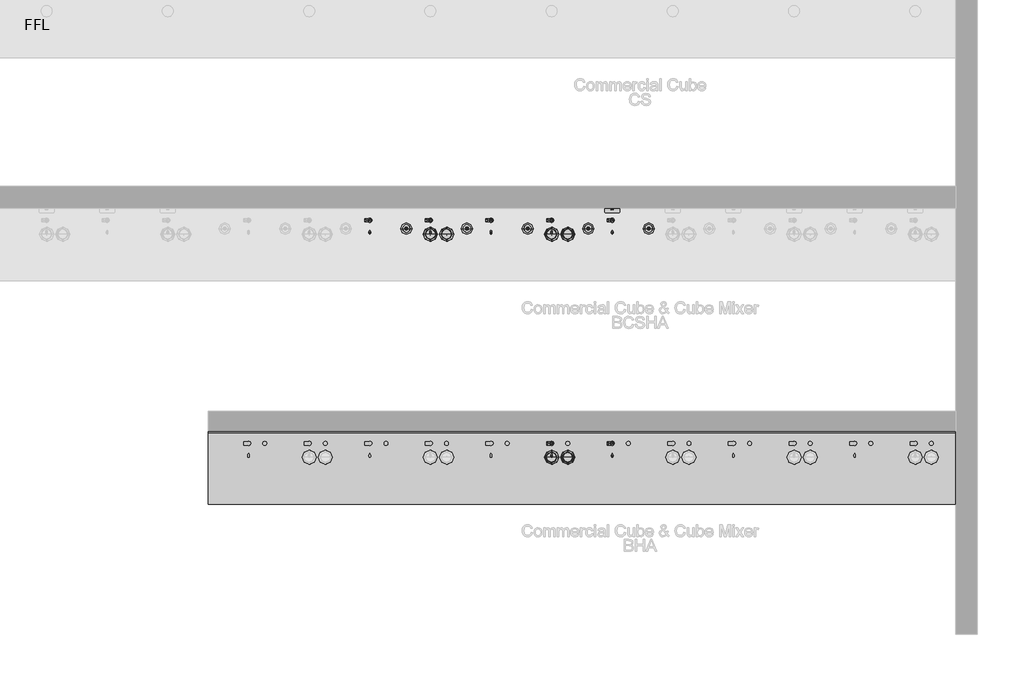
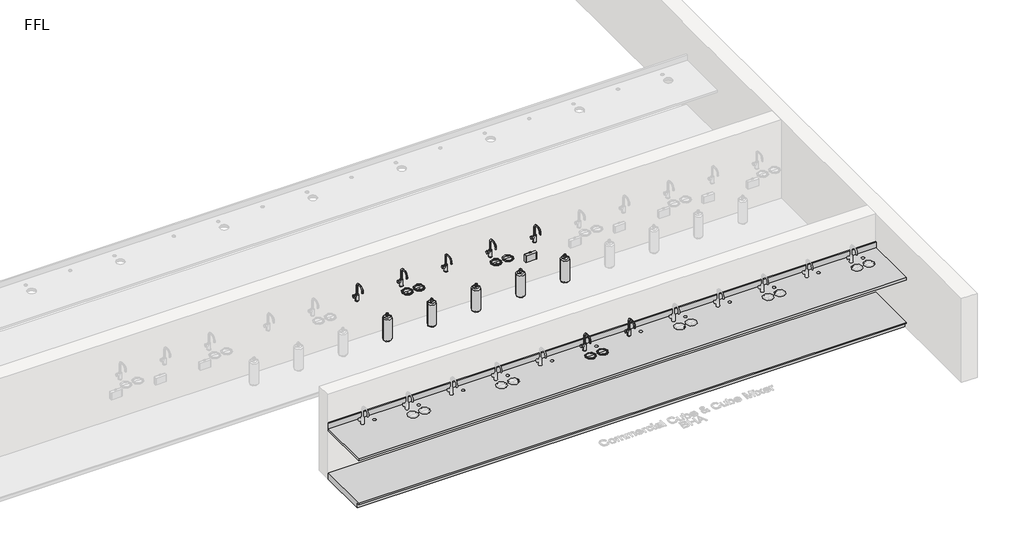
# One storey, part 2 of 14: 21 flow terminals, 2 furniture elements.
"""IFC4 building model written with IfcOpenShell, lengths in millimetres."""

from ifc_helpers import new_model, si_unit, frame, origin, place, context, project, spatial, polyline, circle_curve, transform, mapped, element, save
from ifc_brep_helpers import plane_surface, revolved_surface, advanced_brep
from components import flow_terminal_100_people_gold_0dc622b1, bright_chrome_743c02cf, bright_chrome_cb32e6d9, co2_gas_cylinder_20234e14, generic_plinth_900mm_24ad1541

model = new_model("IFC4")

# Units and contexts
model_context = context("Model", 3, world=origin())
ifc_project = project(units=[si_unit("LENGTHUNIT", "METRE", prefix="MILLI")], contexts=[model_context])

# Site, building, storey
site = spatial("IfcSite", under=ifc_project)
building = spatial("IfcBuilding", under=site)
storey = spatial("IfcBuildingStorey", under=building, Name="FFL", Elevation=0.0)

# Flow terminals
placement = place(None, origin())
flow_terminal_100_people_gold_shape = flow_terminal_100_people_gold_0dc622b1(model_context)
element("IfcFlowTerminal", 1, ObjectType="PlumFixt_Zip Commercial_Cube_Cube Mixer_BHA : 100 People - Gold", at=placement, inside=storey, context=model_context, shape_type="MappedRepresentation", body=[
    mapped(flow_terminal_100_people_gold_shape, transform((7279.2647071, -3457.2606696, 0.0), x_axis=(1.0, 0.0, 0.0), y_axis=(0.0, 1.0, 0.0), z_axis=(0.0, 0.0, 1.0))),
])
element("IfcFlowTerminal", 2, ObjectType="PlumFixt_Zip Commercial_Cube_Cube Mixer_BCSHA : 100 People - Gold", at=placement, inside=storey, context=model_context, shape_type="MappedRepresentation", body=[
    mapped(flow_terminal_100_people_gold_shape, transform((7279.2647071, -696.2606696, 0.0), x_axis=(1.0, 0.0, 0.0), y_axis=(0.0, 1.0, 0.0), z_axis=(0.0, 0.0, 1.0))),
])
element("IfcFlowTerminal", 3, ObjectType="PlumFixt_Zip Commercial_Cube_Cube Mixer_BHA : 100 People - Gunmetal", at=placement, inside=storey, context=model_context, shape_type="MappedRepresentation", body=[
    mapped(flow_terminal_100_people_gold_shape, transform((8029.2647071, -3457.2606696, 0.0), x_axis=(1.0, 0.0, 0.0), y_axis=(0.0, 1.0, 0.0), z_axis=(0.0, 0.0, 1.0))),
])
bright_chrome_shape = bright_chrome_743c02cf(model_context)
element("IfcFlowTerminal", 4, ObjectType="z_PlumFixt_Zip_Font : Bright Chrome", at=placement, inside=storey, context=model_context, shape_type="MappedRepresentation", body=[
    mapped(bright_chrome_shape, transform((5229.2647071, -767.7606696, 900.0), x_axis=(1.0000000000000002, 0.0, 0.0), y_axis=(0.0, 1.0000000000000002, 0.0), z_axis=(0.0, 0.0, 1.0))),
])
element("IfcFlowTerminal", 5, ObjectType="z_PlumFixt_Zip_Font : Bright Chrome", at=placement, inside=storey, context=model_context, shape_type="MappedRepresentation", body=[
    mapped(bright_chrome_shape, transform((6729.2647071, -767.7606696, 900.0), x_axis=(1.0000000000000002, 0.0, 0.0), y_axis=(0.0, 1.0000000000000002, 0.0), z_axis=(0.0, 0.0, 1.0))),
])
element("IfcFlowTerminal", 6, ObjectType="z_PlumFixt_Zip_Font : Bright Chrome", at=placement, inside=storey, context=model_context, shape_type="MappedRepresentation", body=[
    mapped(bright_chrome_shape, transform((6729.2647071, -3528.7606696, 900.0), x_axis=(1.0000000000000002, 0.0, 0.0), y_axis=(0.0, 1.0000000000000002, 0.0), z_axis=(0.0, 0.0, 1.0))),
])
element("IfcFlowTerminal", 7, ObjectType="z_PlumFixt_Zip_Font : Brushed Chrome", at=placement, inside=storey, context=model_context, shape_type="MappedRepresentation", body=[
    mapped(bright_chrome_shape, transform((5029.2647071, -767.7606696, 900.0), x_axis=(1.0000000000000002, 0.0, 0.0), y_axis=(0.0, 1.0000000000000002, 0.0), z_axis=(0.0, 0.0, 1.0))),
])
element("IfcFlowTerminal", 8, ObjectType="z_PlumFixt_Zip_Font : Brushed Chrome", at=placement, inside=storey, context=model_context, shape_type="MappedRepresentation", body=[
    mapped(bright_chrome_shape, transform((6529.2647071, -767.7606696, 900.0), x_axis=(1.0000000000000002, 0.0, 0.0), y_axis=(0.0, 1.0000000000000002, 0.0), z_axis=(0.0, 0.0, 1.0))),
])
element("IfcFlowTerminal", 9, ObjectType="z_PlumFixt_Zip_Font : Brushed Chrome", at=placement, inside=storey, context=model_context, shape_type="MappedRepresentation", body=[
    mapped(bright_chrome_shape, transform((6529.2647071, -3528.7606696, 900.0), x_axis=(1.0000000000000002, 0.0, 0.0), y_axis=(0.0, 1.0000000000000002, 0.0), z_axis=(0.0, 0.0, 1.0))),
])
bright_chrome_2_shape = bright_chrome_cb32e6d9(model_context)
element("IfcFlowTerminal", 10, ObjectType="z_PlumFixt_Zip_Cube : Brushed Gold", at=placement, inside=storey, context=model_context, shape_type="MappedRepresentation", body=[
    mapped(bright_chrome_2_shape, transform((4262.2647071, -668.2606696, 900.0), x_axis=(1.0000000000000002, 0.0, 0.0), y_axis=(0.0, 1.0000000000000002, 0.0), z_axis=(0.0, 0.0, 1.0))),
])
element("IfcFlowTerminal", 11, ObjectType="z_PlumFixt_Zip_Cube : Brushed Nickel", at=placement, inside=storey, context=model_context, shape_type="MappedRepresentation", body=[
    mapped(bright_chrome_2_shape, transform((5012.2647071, -668.2606696, 900.0), x_axis=(1.0000000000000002, 0.0, 0.0), y_axis=(0.0, 1.0000000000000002, 0.0), z_axis=(0.0, 0.0, 1.0))),
])
element("IfcFlowTerminal", 12, ObjectType="z_PlumFixt_Zip_Cube : Brushed Rose Gold", at=placement, inside=storey, context=model_context, shape_type="MappedRepresentation", body=[
    mapped(bright_chrome_2_shape, transform((5762.2647071, -668.2606696, 900.0), x_axis=(1.0000000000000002, 0.0, 0.0), y_axis=(0.0, 1.0000000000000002, 0.0), z_axis=(0.0, 0.0, 1.0))),
])
co2_gas_cylinder_shape = co2_gas_cylinder_20234e14(model_context)
element("IfcFlowTerminal", 13, ObjectType="z_PlumFixt_Zip_CO2 Gas Cylinder : CO2 Gas Cylinder", at=placement, inside=storey, context=model_context, shape_type="MappedRepresentation", body=[
    mapped(co2_gas_cylinder_shape, transform((4734.2647071, -769.7606696, 100.0), x_axis=(-1.0, 0.0, 0.0), y_axis=(0.0, -1.0, 0.0), z_axis=(0.0, 0.0, 1.0))),
])
element("IfcFlowTerminal", 14, ObjectType="z_PlumFixt_Zip_CO2 Gas Cylinder : CO2 Gas Cylinder", at=placement, inside=storey, context=model_context, shape_type="MappedRepresentation", body=[
    mapped(co2_gas_cylinder_shape, transform((5484.2647071, -769.7606696, 100.0), x_axis=(-1.0, 0.0, 0.0), y_axis=(0.0, -1.0, 0.0), z_axis=(0.0, 0.0, 1.0))),
])
element("IfcFlowTerminal", 15, ObjectType="z_PlumFixt_Zip_CO2 Gas Cylinder : CO2 Gas Cylinder", at=placement, inside=storey, context=model_context, shape_type="MappedRepresentation", body=[
    mapped(co2_gas_cylinder_shape, transform((6234.2647071, -769.7606696, 100.0), x_axis=(-1.0, 0.0, 0.0), y_axis=(0.0, -1.0, 0.0), z_axis=(0.0, 0.0, 1.0))),
])
element("IfcFlowTerminal", 16, ObjectType="z_PlumFixt_Zip_CO2 Gas Cylinder : CO2 Gas Cylinder", at=placement, inside=storey, context=model_context, shape_type="MappedRepresentation", body=[
    mapped(co2_gas_cylinder_shape, transform((6984.2647071, -769.7606696, 100.0), x_axis=(-1.0, 0.0, 0.0), y_axis=(0.0, -1.0, 0.0), z_axis=(0.0, 0.0, 1.0))),
])
element("IfcFlowTerminal", 17, ObjectType="z_PlumFixt_Zip_CO2 Gas Cylinder : CO2 Gas Cylinder", at=placement, inside=storey, context=model_context, shape_type="MappedRepresentation", body=[
    mapped(co2_gas_cylinder_shape, transform((7734.2647071, -769.7606696, 100.0), x_axis=(-1.0, 0.0, 0.0), y_axis=(0.0, -1.0, 0.0), z_axis=(0.0, 0.0, 1.0))),
])
element("IfcFlowTerminal", 18, ObjectType="z_PlumFixt_Zip_Cube : Gloss Black", at=placement, inside=storey, context=model_context, shape_type="MappedRepresentation", body=[
    mapped(bright_chrome_2_shape, transform((6512.2647071, -668.2606696, 900.0), x_axis=(1.0000000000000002, 0.0, 0.0), y_axis=(0.0, 1.0000000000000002, 0.0), z_axis=(0.0, 0.0, 1.0))),
])
element("IfcFlowTerminal", 19, ObjectType="z_PlumFixt_Zip_Cube : Gloss Black", at=placement, inside=storey, context=model_context, shape_type="MappedRepresentation", body=[
    mapped(bright_chrome_2_shape, transform((6512.2647071, -3429.2606696, 900.0), x_axis=(1.0000000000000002, 0.0, 0.0), y_axis=(0.0, 1.0000000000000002, 0.0), z_axis=(0.0, 0.0, 1.0))),
])
element("IfcFlowTerminal", 20, ObjectType="z_PlumFixt_Zip_Cube : Gold", at=placement, inside=storey, context=model_context, shape_type="MappedRepresentation", body=[
    mapped(bright_chrome_2_shape, transform((7262.2647071, -668.2606696, 900.0), x_axis=(1.0000000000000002, 0.0, 0.0), y_axis=(0.0, 1.0000000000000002, 0.0), z_axis=(0.0, 0.0, 1.0))),
])
element("IfcFlowTerminal", 21, ObjectType="z_PlumFixt_Zip_Cube : Gold", at=placement, inside=storey, context=model_context, shape_type="MappedRepresentation", body=[
    mapped(bright_chrome_2_shape, transform((7262.2647071, -3429.2606696, 900.0), x_axis=(1.0000000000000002, 0.0, 0.0), y_axis=(0.0, 1.0000000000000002, 0.0), z_axis=(0.0, 0.0, 1.0))),
])

# Furniture
element("IfcFurniture", 22, ObjectType="Counter Top : 900mm Depth", at=placement, inside=storey, context=model_context, shape_type="AdvancedBrep", body=[
    advanced_brep(
    [(2280.2647071, -4091.7606696, 900.0), (11530.2647071, -4091.7606696, 900.0), (11530.2647071, -3210.8106696, 900.0), (2280.2647071, -3210.8106696, 900.0), (11006.2647071, -3341.7606696, 900.0), (11054.2647071, -3341.7606696, 900.0), (10962.0647071, -3513.7606696, 900.0), (11098.4647071, -3513.7606696, 900.0), (11206.2647071, -3341.7606696, 900.0), (11254.2647071, -3341.7606696, 900.0), (11162.0647071, -3513.7606696, 900.0), (11298.4647071, -3513.7606696, 900.0), (10256.2647071, -3341.7606696, 900.0), (10304.2647071, -3341.7606696, 900.0), (10456.2647071, -3341.7606696, 900.0), (10504.2647071, -3341.7606696, 900.0), (9506.2647071, -3341.7606696, 900.0), (9554.2647071, -3341.7606696, 900.0), (9462.0647071, -3513.7606696, 900.0), (9598.4647071, -3513.7606696, 900.0), (9706.2647071, -3341.7606696, 900.0), (9754.2647071, -3341.7606696, 900.0), (9662.0647071, -3513.7606696, 900.0), (9798.4647071, -3513.7606696, 900.0), (8756.2647071, -3341.7606696, 900.0), (8804.2647071, -3341.7606696, 900.0), (8956.2647071, -3341.7606696, 900.0), (9004.2647071, -3341.7606696, 900.0), (8006.2647071, -3341.7606696, 900.0), (8054.2647071, -3341.7606696, 900.0), (7962.0647071, -3513.7606696, 900.0), (8098.4647071, -3513.7606696, 900.0), (8206.2647071, -3341.7606696, 900.0), (8254.2647071, -3341.7606696, 900.0), (8162.0647071, -3513.7606696, 900.0), (8298.4647071, -3513.7606696, 900.0), (7256.2647071, -3341.7606696, 900.0), (7304.2647071, -3341.7606696, 900.0), (7456.2647071, -3341.7606696, 900.0), (7504.2647071, -3341.7606696, 900.0), (6506.2647071, -3341.7606696, 900.0), (6554.2647071, -3341.7606696, 900.0), (6462.0647071, -3513.7606696, 900.0), (6598.4647071, -3513.7606696, 900.0), (6706.2647071, -3341.7606696, 900.0), (6754.2647071, -3341.7606696, 900.0), (6662.0647071, -3513.7606696, 900.0), (6798.4647071, -3513.7606696, 900.0), (5756.2647071, -3341.7606696, 900.0), (5804.2647071, -3341.7606696, 900.0), (5956.2647071, -3341.7606696, 900.0), (6004.2647071, -3341.7606696, 900.0), (5006.2647071, -3341.7606696, 900.0), (5054.2647071, -3341.7606696, 900.0), (4962.0647071, -3513.7606696, 900.0), (5098.4647071, -3513.7606696, 900.0), (5206.2647071, -3341.7606696, 900.0), (5254.2647071, -3341.7606696, 900.0), (5162.0647071, -3513.7606696, 900.0), (5298.4647071, -3513.7606696, 900.0), (4256.2647071, -3341.7606696, 900.0), (4304.2647071, -3341.7606696, 900.0), (4456.2647071, -3341.7606696, 900.0), (4504.2647071, -3341.7606696, 900.0), (3506.2647071, -3341.7606696, 900.0), (3554.2647071, -3341.7606696, 900.0), (3462.0647071, -3513.7606696, 900.0), (3598.4647071, -3513.7606696, 900.0), (3706.2647071, -3341.7606696, 900.0), (3754.2647071, -3341.7606696, 900.0), (3662.0647071, -3513.7606696, 900.0), (3798.4647071, -3513.7606696, 900.0), (2756.2647071, -3341.7606696, 900.0), (2804.2647071, -3341.7606696, 900.0), (2956.2647071, -3341.7606696, 900.0), (3004.2647071, -3341.7606696, 900.0), (11530.2647071, -3191.7606696, 860.0), (11530.2647071, -4091.7606696, 860.0), (2280.2647071, -4091.7606696, 860.0), (2280.2647071, -3191.7606696, 860.0), (11054.2647071, -3341.7606696, 860.0), (11006.2647071, -3341.7606696, 860.0), (11098.4647071, -3513.7606696, 860.0), (10962.0647071, -3513.7606696, 860.0), (11254.2647071, -3341.7606696, 860.0), (11206.2647071, -3341.7606696, 860.0), (11298.4647071, -3513.7606696, 860.0), (11162.0647071, -3513.7606696, 860.0), (10304.2647071, -3341.7606696, 860.0), (10256.2647071, -3341.7606696, 860.0), (10504.2647071, -3341.7606696, 860.0), (10456.2647071, -3341.7606696, 860.0), (9554.2647071, -3341.7606696, 860.0), (9506.2647071, -3341.7606696, 860.0), (9598.4647071, -3513.7606696, 860.0), (9462.0647071, -3513.7606696, 860.0), (9754.2647071, -3341.7606696, 860.0), (9706.2647071, -3341.7606696, 860.0), (9798.4647071, -3513.7606696, 860.0), (9662.0647071, -3513.7606696, 860.0), (8804.2647071, -3341.7606696, 860.0), (8756.2647071, -3341.7606696, 860.0), (9004.2647071, -3341.7606696, 860.0), (8956.2647071, -3341.7606696, 860.0), (8054.2647071, -3341.7606696, 860.0), (8006.2647071, -3341.7606696, 860.0), (8098.4647071, -3513.7606696, 860.0), (7962.0647071, -3513.7606696, 860.0), (8254.2647071, -3341.7606696, 860.0), (8206.2647071, -3341.7606696, 860.0), (8298.4647071, -3513.7606696, 860.0), (8162.0647071, -3513.7606696, 860.0), (7304.2647071, -3341.7606696, 860.0), (7256.2647071, -3341.7606696, 860.0), (7504.2647071, -3341.7606696, 860.0), (7456.2647071, -3341.7606696, 860.0), (6554.2647071, -3341.7606696, 860.0), (6506.2647071, -3341.7606696, 860.0), (6598.4647071, -3513.7606696, 860.0), (6462.0647071, -3513.7606696, 860.0), (6754.2647071, -3341.7606696, 860.0), (6706.2647071, -3341.7606696, 860.0), (6798.4647071, -3513.7606696, 860.0), (6662.0647071, -3513.7606696, 860.0), (5804.2647071, -3341.7606696, 860.0), (5756.2647071, -3341.7606696, 860.0), (6004.2647071, -3341.7606696, 860.0), (5956.2647071, -3341.7606696, 860.0), (5054.2647071, -3341.7606696, 860.0), (5006.2647071, -3341.7606696, 860.0), (5098.4647071, -3513.7606696, 860.0), (4962.0647071, -3513.7606696, 860.0), (5254.2647071, -3341.7606696, 860.0), (5206.2647071, -3341.7606696, 860.0), (5298.4647071, -3513.7606696, 860.0), (5162.0647071, -3513.7606696, 860.0), (4304.2647071, -3341.7606696, 860.0), (4256.2647071, -3341.7606696, 860.0), (4504.2647071, -3341.7606696, 860.0), (4456.2647071, -3341.7606696, 860.0), (3554.2647071, -3341.7606696, 860.0), (3506.2647071, -3341.7606696, 860.0), (3598.4647071, -3513.7606696, 860.0), (3462.0647071, -3513.7606696, 860.0), (3754.2647071, -3341.7606696, 860.0), (3706.2647071, -3341.7606696, 860.0), (3798.4647071, -3513.7606696, 860.0), (3662.0647071, -3513.7606696, 860.0), (2804.2647071, -3341.7606696, 860.0), (2756.2647071, -3341.7606696, 860.0), (3004.2647071, -3341.7606696, 860.0), (2956.2647071, -3341.7606696, 860.0), (2280.2647071, -3191.7606696, 1001.6), (11530.2647071, -3191.7606696, 1001.6), (2280.2647071, -3210.8106696, 1001.6), (11530.2647071, -3210.8106696, 1001.6)],
    [
        (0, 1),
        (1, 2),
        (2, 3),
        (3, 0),
        (4, 5, circle_curve(frame((11030.2647071, -3341.7606696, 900.0), z_axis=(0.0, 0.0, -1.0), x_axis=(-1.0000000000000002, 0.0, 0.0)), 24.0)),
        (5, 4, circle_curve(frame((11030.2647071, -3341.7606696, 900.0), z_axis=(0.0, 0.0, -1.0), x_axis=(-1.0000000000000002, 0.0, 0.0)), 24.0)),
        (6, 7, circle_curve(frame((11030.2647071, -3513.7606696, 900.0), z_axis=(0.0, 0.0, -1.0), x_axis=(-1.0000000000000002, 0.0, 0.0)), 68.2)),
        (7, 6, circle_curve(frame((11030.2647071, -3513.7606696, 900.0), z_axis=(0.0, 0.0, -1.0), x_axis=(-1.0000000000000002, 0.0, 0.0)), 68.2)),
        (8, 9, circle_curve(frame((11230.2647071, -3341.7606696, 900.0), z_axis=(0.0, 0.0, -1.0), x_axis=(-1.0000000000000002, 0.0, 0.0)), 24.0)),
        (9, 8, circle_curve(frame((11230.2647071, -3341.7606696, 900.0), z_axis=(0.0, 0.0, -1.0), x_axis=(-1.0000000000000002, 0.0, 0.0)), 24.0)),
        (10, 11, circle_curve(frame((11230.2647071, -3513.7606696, 900.0), z_axis=(0.0, 0.0, -1.0), x_axis=(-1.0000000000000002, 0.0, 0.0)), 68.2)),
        (11, 10, circle_curve(frame((11230.2647071, -3513.7606696, 900.0), z_axis=(0.0, 0.0, -1.0), x_axis=(-1.0000000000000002, 0.0, 0.0)), 68.2)),
        (12, 13, circle_curve(frame((10280.2647071, -3341.7606696, 900.0), z_axis=(0.0, 0.0, -1.0), x_axis=(-1.0000000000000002, 0.0, 0.0)), 24.0)),
        (13, 12, circle_curve(frame((10280.2647071, -3341.7606696, 900.0), z_axis=(0.0, 0.0, -1.0), x_axis=(-1.0000000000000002, 0.0, 0.0)), 24.0)),
        (14, 15, circle_curve(frame((10480.2647071, -3341.7606696, 900.0), z_axis=(0.0, 0.0, -1.0), x_axis=(-1.0000000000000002, 0.0, 0.0)), 24.0)),
        (15, 14, circle_curve(frame((10480.2647071, -3341.7606696, 900.0), z_axis=(0.0, 0.0, -1.0), x_axis=(-1.0000000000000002, 0.0, 0.0)), 24.0)),
        (16, 17, circle_curve(frame((9530.2647071, -3341.7606696, 900.0), z_axis=(0.0, 0.0, -1.0), x_axis=(-1.0000000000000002, 0.0, 0.0)), 24.0)),
        (17, 16, circle_curve(frame((9530.2647071, -3341.7606696, 900.0), z_axis=(0.0, 0.0, -1.0), x_axis=(-1.0000000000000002, 0.0, 0.0)), 24.0)),
        (18, 19, circle_curve(frame((9530.2647071, -3513.7606696, 900.0), z_axis=(0.0, 0.0, -1.0), x_axis=(-1.0000000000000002, 0.0, 0.0)), 68.2)),
        (19, 18, circle_curve(frame((9530.2647071, -3513.7606696, 900.0), z_axis=(0.0, 0.0, -1.0), x_axis=(-1.0000000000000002, 0.0, 0.0)), 68.2)),
        (20, 21, circle_curve(frame((9730.2647071, -3341.7606696, 900.0), z_axis=(0.0, 0.0, -1.0), x_axis=(-1.0000000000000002, 0.0, 0.0)), 24.0)),
        (21, 20, circle_curve(frame((9730.2647071, -3341.7606696, 900.0), z_axis=(0.0, 0.0, -1.0), x_axis=(-1.0000000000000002, 0.0, 0.0)), 24.0)),
        (22, 23, circle_curve(frame((9730.2647071, -3513.7606696, 900.0), z_axis=(0.0, 0.0, -1.0), x_axis=(-1.0000000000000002, 0.0, 0.0)), 68.2)),
        (23, 22, circle_curve(frame((9730.2647071, -3513.7606696, 900.0), z_axis=(0.0, 0.0, -1.0), x_axis=(-1.0000000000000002, 0.0, 0.0)), 68.2)),
        (24, 25, circle_curve(frame((8780.2647071, -3341.7606696, 900.0), z_axis=(0.0, 0.0, -1.0), x_axis=(-1.0000000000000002, 0.0, 0.0)), 24.0)),
        (25, 24, circle_curve(frame((8780.2647071, -3341.7606696, 900.0), z_axis=(0.0, 0.0, -1.0), x_axis=(-1.0000000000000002, 0.0, 0.0)), 24.0)),
        (26, 27, circle_curve(frame((8980.2647071, -3341.7606696, 900.0), z_axis=(0.0, 0.0, -1.0), x_axis=(-1.0000000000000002, 0.0, 0.0)), 24.0)),
        (27, 26, circle_curve(frame((8980.2647071, -3341.7606696, 900.0), z_axis=(0.0, 0.0, -1.0), x_axis=(-1.0000000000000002, 0.0, 0.0)), 24.0)),
        (28, 29, circle_curve(frame((8030.2647071, -3341.7606696, 900.0), z_axis=(0.0, 0.0, -1.0), x_axis=(-1.0000000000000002, 0.0, 0.0)), 24.0)),
        (29, 28, circle_curve(frame((8030.2647071, -3341.7606696, 900.0), z_axis=(0.0, 0.0, -1.0), x_axis=(-1.0000000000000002, 0.0, 0.0)), 24.0)),
        (30, 31, circle_curve(frame((8030.2647071, -3513.7606696, 900.0), z_axis=(0.0, 0.0, -1.0), x_axis=(-1.0000000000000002, 0.0, 0.0)), 68.2)),
        (31, 30, circle_curve(frame((8030.2647071, -3513.7606696, 900.0), z_axis=(0.0, 0.0, -1.0), x_axis=(-1.0000000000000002, 0.0, 0.0)), 68.2)),
        (32, 33, circle_curve(frame((8230.2647071, -3341.7606696, 900.0), z_axis=(0.0, 0.0, -1.0), x_axis=(-1.0000000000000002, 0.0, 0.0)), 24.0)),
        (33, 32, circle_curve(frame((8230.2647071, -3341.7606696, 900.0), z_axis=(0.0, 0.0, -1.0), x_axis=(-1.0000000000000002, 0.0, 0.0)), 24.0)),
        (34, 35, circle_curve(frame((8230.2647071, -3513.7606696, 900.0), z_axis=(0.0, 0.0, -1.0), x_axis=(-1.0000000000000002, 0.0, 0.0)), 68.2)),
        (35, 34, circle_curve(frame((8230.2647071, -3513.7606696, 900.0), z_axis=(0.0, 0.0, -1.0), x_axis=(-1.0000000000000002, 0.0, 0.0)), 68.2)),
        (36, 37, circle_curve(frame((7280.2647071, -3341.7606696, 900.0), z_axis=(0.0, 0.0, -1.0), x_axis=(-1.0000000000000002, 0.0, 0.0)), 24.0)),
        (37, 36, circle_curve(frame((7280.2647071, -3341.7606696, 900.0), z_axis=(0.0, 0.0, -1.0), x_axis=(-1.0000000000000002, 0.0, 0.0)), 24.0)),
        (38, 39, circle_curve(frame((7480.2647071, -3341.7606696, 900.0), z_axis=(0.0, 0.0, -1.0), x_axis=(-1.0000000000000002, 0.0, 0.0)), 24.0)),
        (39, 38, circle_curve(frame((7480.2647071, -3341.7606696, 900.0), z_axis=(0.0, 0.0, -1.0), x_axis=(-1.0000000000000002, 0.0, 0.0)), 24.0)),
        (40, 41, circle_curve(frame((6530.2647071, -3341.7606696, 900.0), z_axis=(0.0, 0.0, -1.0), x_axis=(-1.0000000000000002, 0.0, 0.0)), 24.0)),
        (41, 40, circle_curve(frame((6530.2647071, -3341.7606696, 900.0), z_axis=(0.0, 0.0, -1.0), x_axis=(-1.0000000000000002, 0.0, 0.0)), 24.0)),
        (42, 43, circle_curve(frame((6530.2647071, -3513.7606696, 900.0), z_axis=(0.0, 0.0, -1.0), x_axis=(-1.0000000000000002, 0.0, 0.0)), 68.2)),
        (43, 42, circle_curve(frame((6530.2647071, -3513.7606696, 900.0), z_axis=(0.0, 0.0, -1.0), x_axis=(-1.0000000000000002, 0.0, 0.0)), 68.2)),
        (44, 45, circle_curve(frame((6730.2647071, -3341.7606696, 900.0), z_axis=(0.0, 0.0, -1.0), x_axis=(-1.0000000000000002, 0.0, 0.0)), 24.0)),
        (45, 44, circle_curve(frame((6730.2647071, -3341.7606696, 900.0), z_axis=(0.0, 0.0, -1.0), x_axis=(-1.0000000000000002, 0.0, 0.0)), 24.0)),
        (46, 47, circle_curve(frame((6730.2647071, -3513.7606696, 900.0), z_axis=(0.0, 0.0, -1.0), x_axis=(-1.0000000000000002, 0.0, 0.0)), 68.2)),
        (47, 46, circle_curve(frame((6730.2647071, -3513.7606696, 900.0), z_axis=(0.0, 0.0, -1.0), x_axis=(-1.0000000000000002, 0.0, 0.0)), 68.2)),
        (48, 49, circle_curve(frame((5780.2647071, -3341.7606696, 900.0), z_axis=(0.0, 0.0, -1.0), x_axis=(-1.0000000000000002, 0.0, 0.0)), 24.0)),
        (49, 48, circle_curve(frame((5780.2647071, -3341.7606696, 900.0), z_axis=(0.0, 0.0, -1.0), x_axis=(-1.0000000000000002, 0.0, 0.0)), 24.0)),
        (50, 51, circle_curve(frame((5980.2647071, -3341.7606696, 900.0), z_axis=(0.0, 0.0, -1.0), x_axis=(-1.0000000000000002, 0.0, 0.0)), 24.0)),
        (51, 50, circle_curve(frame((5980.2647071, -3341.7606696, 900.0), z_axis=(0.0, 0.0, -1.0), x_axis=(-1.0000000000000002, 0.0, 0.0)), 24.0)),
        (52, 53, circle_curve(frame((5030.2647071, -3341.7606696, 900.0), z_axis=(0.0, 0.0, -1.0), x_axis=(-1.0000000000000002, 0.0, 0.0)), 24.0)),
        (53, 52, circle_curve(frame((5030.2647071, -3341.7606696, 900.0), z_axis=(0.0, 0.0, -1.0), x_axis=(-1.0000000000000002, 0.0, 0.0)), 24.0)),
        (54, 55, circle_curve(frame((5030.2647071, -3513.7606696, 900.0), z_axis=(0.0, 0.0, -1.0), x_axis=(-1.0000000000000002, 0.0, 0.0)), 68.2)),
        (55, 54, circle_curve(frame((5030.2647071, -3513.7606696, 900.0), z_axis=(0.0, 0.0, -1.0), x_axis=(-1.0000000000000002, 0.0, 0.0)), 68.2)),
        (56, 57, circle_curve(frame((5230.2647071, -3341.7606696, 900.0), z_axis=(0.0, 0.0, -1.0), x_axis=(-1.0000000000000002, 0.0, 0.0)), 24.0)),
        (57, 56, circle_curve(frame((5230.2647071, -3341.7606696, 900.0), z_axis=(0.0, 0.0, -1.0), x_axis=(-1.0000000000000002, 0.0, 0.0)), 24.0)),
        (58, 59, circle_curve(frame((5230.2647071, -3513.7606696, 900.0), z_axis=(0.0, 0.0, -1.0), x_axis=(-1.0000000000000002, 0.0, 0.0)), 68.2)),
        (59, 58, circle_curve(frame((5230.2647071, -3513.7606696, 900.0), z_axis=(0.0, 0.0, -1.0), x_axis=(-1.0000000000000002, 0.0, 0.0)), 68.2)),
        (60, 61, circle_curve(frame((4280.2647071, -3341.7606696, 900.0), z_axis=(0.0, 0.0, -1.0), x_axis=(-1.0000000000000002, 0.0, 0.0)), 24.0)),
        (61, 60, circle_curve(frame((4280.2647071, -3341.7606696, 900.0), z_axis=(0.0, 0.0, -1.0), x_axis=(-1.0000000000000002, 0.0, 0.0)), 24.0)),
        (62, 63, circle_curve(frame((4480.2647071, -3341.7606696, 900.0), z_axis=(0.0, 0.0, -1.0), x_axis=(-1.0000000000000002, 0.0, 0.0)), 24.0)),
        (63, 62, circle_curve(frame((4480.2647071, -3341.7606696, 900.0), z_axis=(0.0, 0.0, -1.0), x_axis=(-1.0000000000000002, 0.0, 0.0)), 24.0)),
        (64, 65, circle_curve(frame((3530.2647071, -3341.7606696, 900.0), z_axis=(0.0, 0.0, -1.0), x_axis=(-1.0000000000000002, 0.0, 0.0)), 24.0)),
        (65, 64, circle_curve(frame((3530.2647071, -3341.7606696, 900.0), z_axis=(0.0, 0.0, -1.0), x_axis=(-1.0000000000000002, 0.0, 0.0)), 24.0)),
        (66, 67, circle_curve(frame((3530.2647071, -3513.7606696, 900.0), z_axis=(0.0, 0.0, -1.0), x_axis=(-1.0000000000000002, 0.0, 0.0)), 68.2)),
        (67, 66, circle_curve(frame((3530.2647071, -3513.7606696, 900.0), z_axis=(0.0, 0.0, -1.0), x_axis=(-1.0000000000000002, 0.0, 0.0)), 68.2)),
        (68, 69, circle_curve(frame((3730.2647071, -3341.7606696, 900.0), z_axis=(0.0, 0.0, -1.0), x_axis=(-1.0000000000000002, 0.0, 0.0)), 24.0)),
        (69, 68, circle_curve(frame((3730.2647071, -3341.7606696, 900.0), z_axis=(0.0, 0.0, -1.0), x_axis=(-1.0000000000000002, 0.0, 0.0)), 24.0)),
        (70, 71, circle_curve(frame((3730.2647071, -3513.7606696, 900.0), z_axis=(0.0, 0.0, -1.0), x_axis=(-1.0000000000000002, 0.0, 0.0)), 68.2)),
        (71, 70, circle_curve(frame((3730.2647071, -3513.7606696, 900.0), z_axis=(0.0, 0.0, -1.0), x_axis=(-1.0000000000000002, 0.0, 0.0)), 68.2)),
        (72, 73, circle_curve(frame((2780.2647071, -3341.7606696, 900.0), z_axis=(0.0, 0.0, -1.0), x_axis=(-1.0000000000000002, 0.0, 0.0)), 24.0)),
        (73, 72, circle_curve(frame((2780.2647071, -3341.7606696, 900.0), z_axis=(0.0, 0.0, -1.0), x_axis=(-1.0000000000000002, 0.0, 0.0)), 24.0)),
        (74, 75, circle_curve(frame((2980.2647071, -3341.7606696, 900.0), z_axis=(0.0, 0.0, -1.0), x_axis=(-1.0000000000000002, 0.0, 0.0)), 24.0)),
        (75, 74, circle_curve(frame((2980.2647071, -3341.7606696, 900.0), z_axis=(0.0, 0.0, -1.0), x_axis=(-1.0000000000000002, 0.0, 0.0)), 24.0)),
        (76, 77),
        (77, 78),
        (78, 79),
        (79, 76),
        (80, 81, circle_curve(frame((11030.2647071, -3341.7606696, 860.0), z_axis=(0.0, 0.0, 1.0), x_axis=(-1.0000000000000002, 0.0, 0.0)), 24.0)),
        (81, 80, circle_curve(frame((11030.2647071, -3341.7606696, 860.0), z_axis=(0.0, 0.0, 1.0), x_axis=(-1.0000000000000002, 0.0, 0.0)), 24.0)),
        (82, 83, circle_curve(frame((11030.2647071, -3513.7606696, 860.0), z_axis=(0.0, 0.0, 1.0), x_axis=(-1.0000000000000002, 0.0, 0.0)), 68.2)),
        (83, 82, circle_curve(frame((11030.2647071, -3513.7606696, 860.0), z_axis=(0.0, 0.0, 1.0), x_axis=(-1.0000000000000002, 0.0, 0.0)), 68.2)),
        (84, 85, circle_curve(frame((11230.2647071, -3341.7606696, 860.0), z_axis=(0.0, 0.0, 1.0), x_axis=(-1.0000000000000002, 0.0, 0.0)), 24.0)),
        (85, 84, circle_curve(frame((11230.2647071, -3341.7606696, 860.0), z_axis=(0.0, 0.0, 1.0), x_axis=(-1.0000000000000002, 0.0, 0.0)), 24.0)),
        (86, 87, circle_curve(frame((11230.2647071, -3513.7606696, 860.0), z_axis=(0.0, 0.0, 1.0), x_axis=(-1.0000000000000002, 0.0, 0.0)), 68.2)),
        (87, 86, circle_curve(frame((11230.2647071, -3513.7606696, 860.0), z_axis=(0.0, 0.0, 1.0), x_axis=(-1.0000000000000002, 0.0, 0.0)), 68.2)),
        (88, 89, circle_curve(frame((10280.2647071, -3341.7606696, 860.0), z_axis=(0.0, 0.0, 1.0), x_axis=(-1.0000000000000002, 0.0, 0.0)), 24.0)),
        (89, 88, circle_curve(frame((10280.2647071, -3341.7606696, 860.0), z_axis=(0.0, 0.0, 1.0), x_axis=(-1.0000000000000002, 0.0, 0.0)), 24.0)),
        (90, 91, circle_curve(frame((10480.2647071, -3341.7606696, 860.0), z_axis=(0.0, 0.0, 1.0), x_axis=(-1.0000000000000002, 0.0, 0.0)), 24.0)),
        (91, 90, circle_curve(frame((10480.2647071, -3341.7606696, 860.0), z_axis=(0.0, 0.0, 1.0), x_axis=(-1.0000000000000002, 0.0, 0.0)), 24.0)),
        (92, 93, circle_curve(frame((9530.2647071, -3341.7606696, 860.0), z_axis=(0.0, 0.0, 1.0), x_axis=(-1.0000000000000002, 0.0, 0.0)), 24.0)),
        (93, 92, circle_curve(frame((9530.2647071, -3341.7606696, 860.0), z_axis=(0.0, 0.0, 1.0), x_axis=(-1.0000000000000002, 0.0, 0.0)), 24.0)),
        (94, 95, circle_curve(frame((9530.2647071, -3513.7606696, 860.0), z_axis=(0.0, 0.0, 1.0), x_axis=(-1.0000000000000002, 0.0, 0.0)), 68.2)),
        (95, 94, circle_curve(frame((9530.2647071, -3513.7606696, 860.0), z_axis=(0.0, 0.0, 1.0), x_axis=(-1.0000000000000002, 0.0, 0.0)), 68.2)),
        (96, 97, circle_curve(frame((9730.2647071, -3341.7606696, 860.0), z_axis=(0.0, 0.0, 1.0), x_axis=(-1.0000000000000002, 0.0, 0.0)), 24.0)),
        (97, 96, circle_curve(frame((9730.2647071, -3341.7606696, 860.0), z_axis=(0.0, 0.0, 1.0), x_axis=(-1.0000000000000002, 0.0, 0.0)), 24.0)),
        (98, 99, circle_curve(frame((9730.2647071, -3513.7606696, 860.0), z_axis=(0.0, 0.0, 1.0), x_axis=(-1.0000000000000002, 0.0, 0.0)), 68.2)),
        (99, 98, circle_curve(frame((9730.2647071, -3513.7606696, 860.0), z_axis=(0.0, 0.0, 1.0), x_axis=(-1.0000000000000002, 0.0, 0.0)), 68.2)),
        (100, 101, circle_curve(frame((8780.2647071, -3341.7606696, 860.0), z_axis=(0.0, 0.0, 1.0), x_axis=(-1.0000000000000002, 0.0, 0.0)), 24.0)),
        (101, 100, circle_curve(frame((8780.2647071, -3341.7606696, 860.0), z_axis=(0.0, 0.0, 1.0), x_axis=(-1.0000000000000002, 0.0, 0.0)), 24.0)),
        (102, 103, circle_curve(frame((8980.2647071, -3341.7606696, 860.0), z_axis=(0.0, 0.0, 1.0), x_axis=(-1.0000000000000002, 0.0, 0.0)), 24.0)),
        (103, 102, circle_curve(frame((8980.2647071, -3341.7606696, 860.0), z_axis=(0.0, 0.0, 1.0), x_axis=(-1.0000000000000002, 0.0, 0.0)), 24.0)),
        (104, 105, circle_curve(frame((8030.2647071, -3341.7606696, 860.0), z_axis=(0.0, 0.0, 1.0), x_axis=(-1.0000000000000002, 0.0, 0.0)), 24.0)),
        (105, 104, circle_curve(frame((8030.2647071, -3341.7606696, 860.0), z_axis=(0.0, 0.0, 1.0), x_axis=(-1.0000000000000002, 0.0, 0.0)), 24.0)),
        (106, 107, circle_curve(frame((8030.2647071, -3513.7606696, 860.0), z_axis=(0.0, 0.0, 1.0), x_axis=(-1.0000000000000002, 0.0, 0.0)), 68.2)),
        (107, 106, circle_curve(frame((8030.2647071, -3513.7606696, 860.0), z_axis=(0.0, 0.0, 1.0), x_axis=(-1.0000000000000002, 0.0, 0.0)), 68.2)),
        (108, 109, circle_curve(frame((8230.2647071, -3341.7606696, 860.0), z_axis=(0.0, 0.0, 1.0), x_axis=(-1.0000000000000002, 0.0, 0.0)), 24.0)),
        (109, 108, circle_curve(frame((8230.2647071, -3341.7606696, 860.0), z_axis=(0.0, 0.0, 1.0), x_axis=(-1.0000000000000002, 0.0, 0.0)), 24.0)),
        (110, 111, circle_curve(frame((8230.2647071, -3513.7606696, 860.0), z_axis=(0.0, 0.0, 1.0), x_axis=(-1.0000000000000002, 0.0, 0.0)), 68.2)),
        (111, 110, circle_curve(frame((8230.2647071, -3513.7606696, 860.0), z_axis=(0.0, 0.0, 1.0), x_axis=(-1.0000000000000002, 0.0, 0.0)), 68.2)),
        (112, 113, circle_curve(frame((7280.2647071, -3341.7606696, 860.0), z_axis=(0.0, 0.0, 1.0), x_axis=(-1.0000000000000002, 0.0, 0.0)), 24.0)),
        (113, 112, circle_curve(frame((7280.2647071, -3341.7606696, 860.0), z_axis=(0.0, 0.0, 1.0), x_axis=(-1.0000000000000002, 0.0, 0.0)), 24.0)),
        (114, 115, circle_curve(frame((7480.2647071, -3341.7606696, 860.0), z_axis=(0.0, 0.0, 1.0), x_axis=(-1.0000000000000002, 0.0, 0.0)), 24.0)),
        (115, 114, circle_curve(frame((7480.2647071, -3341.7606696, 860.0), z_axis=(0.0, 0.0, 1.0), x_axis=(-1.0000000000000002, 0.0, 0.0)), 24.0)),
        (116, 117, circle_curve(frame((6530.2647071, -3341.7606696, 860.0), z_axis=(0.0, 0.0, 1.0), x_axis=(-1.0000000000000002, 0.0, 0.0)), 24.0)),
        (117, 116, circle_curve(frame((6530.2647071, -3341.7606696, 860.0), z_axis=(0.0, 0.0, 1.0), x_axis=(-1.0000000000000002, 0.0, 0.0)), 24.0)),
        (118, 119, circle_curve(frame((6530.2647071, -3513.7606696, 860.0), z_axis=(0.0, 0.0, 1.0), x_axis=(-1.0000000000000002, 0.0, 0.0)), 68.2)),
        (119, 118, circle_curve(frame((6530.2647071, -3513.7606696, 860.0), z_axis=(0.0, 0.0, 1.0), x_axis=(-1.0000000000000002, 0.0, 0.0)), 68.2)),
        (120, 121, circle_curve(frame((6730.2647071, -3341.7606696, 860.0), z_axis=(0.0, 0.0, 1.0), x_axis=(-1.0000000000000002, 0.0, 0.0)), 24.0)),
        (121, 120, circle_curve(frame((6730.2647071, -3341.7606696, 860.0), z_axis=(0.0, 0.0, 1.0), x_axis=(-1.0000000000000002, 0.0, 0.0)), 24.0)),
        (122, 123, circle_curve(frame((6730.2647071, -3513.7606696, 860.0), z_axis=(0.0, 0.0, 1.0), x_axis=(-1.0000000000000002, 0.0, 0.0)), 68.2)),
        (123, 122, circle_curve(frame((6730.2647071, -3513.7606696, 860.0), z_axis=(0.0, 0.0, 1.0), x_axis=(-1.0000000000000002, 0.0, 0.0)), 68.2)),
        (124, 125, circle_curve(frame((5780.2647071, -3341.7606696, 860.0), z_axis=(0.0, 0.0, 1.0), x_axis=(-1.0000000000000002, 0.0, 0.0)), 24.0)),
        (125, 124, circle_curve(frame((5780.2647071, -3341.7606696, 860.0), z_axis=(0.0, 0.0, 1.0), x_axis=(-1.0000000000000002, 0.0, 0.0)), 24.0)),
        (126, 127, circle_curve(frame((5980.2647071, -3341.7606696, 860.0), z_axis=(0.0, 0.0, 1.0), x_axis=(-1.0000000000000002, 0.0, 0.0)), 24.0)),
        (127, 126, circle_curve(frame((5980.2647071, -3341.7606696, 860.0), z_axis=(0.0, 0.0, 1.0), x_axis=(-1.0000000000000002, 0.0, 0.0)), 24.0)),
        (128, 129, circle_curve(frame((5030.2647071, -3341.7606696, 860.0), z_axis=(0.0, 0.0, 1.0), x_axis=(-1.0000000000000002, 0.0, 0.0)), 24.0)),
        (129, 128, circle_curve(frame((5030.2647071, -3341.7606696, 860.0), z_axis=(0.0, 0.0, 1.0), x_axis=(-1.0000000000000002, 0.0, 0.0)), 24.0)),
        (130, 131, circle_curve(frame((5030.2647071, -3513.7606696, 860.0), z_axis=(0.0, 0.0, 1.0), x_axis=(-1.0000000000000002, 0.0, 0.0)), 68.2)),
        (131, 130, circle_curve(frame((5030.2647071, -3513.7606696, 860.0), z_axis=(0.0, 0.0, 1.0), x_axis=(-1.0000000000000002, 0.0, 0.0)), 68.2)),
        (132, 133, circle_curve(frame((5230.2647071, -3341.7606696, 860.0), z_axis=(0.0, 0.0, 1.0), x_axis=(-1.0000000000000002, 0.0, 0.0)), 24.0)),
        (133, 132, circle_curve(frame((5230.2647071, -3341.7606696, 860.0), z_axis=(0.0, 0.0, 1.0), x_axis=(-1.0000000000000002, 0.0, 0.0)), 24.0)),
        (134, 135, circle_curve(frame((5230.2647071, -3513.7606696, 860.0), z_axis=(0.0, 0.0, 1.0), x_axis=(-1.0000000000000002, 0.0, 0.0)), 68.2)),
        (135, 134, circle_curve(frame((5230.2647071, -3513.7606696, 860.0), z_axis=(0.0, 0.0, 1.0), x_axis=(-1.0000000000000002, 0.0, 0.0)), 68.2)),
        (136, 137, circle_curve(frame((4280.2647071, -3341.7606696, 860.0), z_axis=(0.0, 0.0, 1.0), x_axis=(-1.0000000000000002, 0.0, 0.0)), 24.0)),
        (137, 136, circle_curve(frame((4280.2647071, -3341.7606696, 860.0), z_axis=(0.0, 0.0, 1.0), x_axis=(-1.0000000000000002, 0.0, 0.0)), 24.0)),
        (138, 139, circle_curve(frame((4480.2647071, -3341.7606696, 860.0), z_axis=(0.0, 0.0, 1.0), x_axis=(-1.0000000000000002, 0.0, 0.0)), 24.0)),
        (139, 138, circle_curve(frame((4480.2647071, -3341.7606696, 860.0), z_axis=(0.0, 0.0, 1.0), x_axis=(-1.0000000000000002, 0.0, 0.0)), 24.0)),
        (140, 141, circle_curve(frame((3530.2647071, -3341.7606696, 860.0), z_axis=(0.0, 0.0, 1.0), x_axis=(-1.0000000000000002, 0.0, 0.0)), 24.0)),
        (141, 140, circle_curve(frame((3530.2647071, -3341.7606696, 860.0), z_axis=(0.0, 0.0, 1.0), x_axis=(-1.0000000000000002, 0.0, 0.0)), 24.0)),
        (142, 143, circle_curve(frame((3530.2647071, -3513.7606696, 860.0), z_axis=(0.0, 0.0, 1.0), x_axis=(-1.0000000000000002, 0.0, 0.0)), 68.2)),
        (143, 142, circle_curve(frame((3530.2647071, -3513.7606696, 860.0), z_axis=(0.0, 0.0, 1.0), x_axis=(-1.0000000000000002, 0.0, 0.0)), 68.2)),
        (144, 145, circle_curve(frame((3730.2647071, -3341.7606696, 860.0), z_axis=(0.0, 0.0, 1.0), x_axis=(-1.0000000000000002, 0.0, 0.0)), 24.0)),
        (145, 144, circle_curve(frame((3730.2647071, -3341.7606696, 860.0), z_axis=(0.0, 0.0, 1.0), x_axis=(-1.0000000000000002, 0.0, 0.0)), 24.0)),
        (146, 147, circle_curve(frame((3730.2647071, -3513.7606696, 860.0), z_axis=(0.0, 0.0, 1.0), x_axis=(-1.0000000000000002, 0.0, 0.0)), 68.2)),
        (147, 146, circle_curve(frame((3730.2647071, -3513.7606696, 860.0), z_axis=(0.0, 0.0, 1.0), x_axis=(-1.0000000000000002, 0.0, 0.0)), 68.2)),
        (148, 149, circle_curve(frame((2780.2647071, -3341.7606696, 860.0), z_axis=(0.0, 0.0, 1.0), x_axis=(-1.0000000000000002, 0.0, 0.0)), 24.0)),
        (149, 148, circle_curve(frame((2780.2647071, -3341.7606696, 860.0), z_axis=(0.0, 0.0, 1.0), x_axis=(-1.0000000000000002, 0.0, 0.0)), 24.0)),
        (150, 151, circle_curve(frame((2980.2647071, -3341.7606696, 860.0), z_axis=(0.0, 0.0, 1.0), x_axis=(-1.0000000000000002, 0.0, 0.0)), 24.0)),
        (151, 150, circle_curve(frame((2980.2647071, -3341.7606696, 860.0), z_axis=(0.0, 0.0, 1.0), x_axis=(-1.0000000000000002, 0.0, 0.0)), 24.0)),
        (79, 152),
        (152, 153),
        (153, 76),
        (3, 154),
        (154, 152),
        (78, 0),
        (77, 1),
        (153, 155),
        (155, 2),
        (154, 155),
        (80, 5),
        (4, 81),
        (82, 7),
        (6, 83),
        (84, 9),
        (8, 85),
        (86, 11),
        (10, 87),
        (88, 13),
        (12, 89),
        (90, 15),
        (14, 91),
        (92, 17),
        (16, 93),
        (94, 19),
        (18, 95),
        (96, 21),
        (20, 97),
        (98, 23),
        (22, 99),
        (100, 25),
        (24, 101),
        (102, 27),
        (26, 103),
        (104, 29),
        (28, 105),
        (106, 31),
        (30, 107),
        (108, 33),
        (32, 109),
        (110, 35),
        (34, 111),
        (112, 37),
        (36, 113),
        (114, 39),
        (38, 115),
        (116, 41),
        (40, 117),
        (118, 43),
        (42, 119),
        (120, 45),
        (44, 121),
        (122, 47),
        (46, 123),
        (124, 49),
        (48, 125),
        (126, 51),
        (50, 127),
        (128, 53),
        (52, 129),
        (130, 55),
        (54, 131),
        (132, 57),
        (56, 133),
        (134, 59),
        (58, 135),
        (136, 61),
        (60, 137),
        (138, 63),
        (62, 139),
        (140, 65),
        (64, 141),
        (142, 67),
        (66, 143),
        (144, 69),
        (68, 145),
        (146, 71),
        (70, 147),
        (148, 73),
        (72, 149),
        (150, 75),
        (74, 151),
    ],
    [
        plane_surface(frame((2280.2647071, -3191.7606696, 900.0), z_axis=(0.0, 0.0, 1.0), x_axis=(-1.0, 0.0, 0.0))),
        plane_surface(frame((2280.2647071, -3191.7606696, 860.0), z_axis=(0.0, 0.0, -1.0), x_axis=(1.0, 0.0, 0.0))),
        plane_surface(frame((11530.2647071, -3191.7606696, 900.0), z_axis=(0.0, 1.0, 0.0), x_axis=(0.0, 0.0, -1.0))),
        plane_surface(frame((2280.2647071, -3191.7606696, 900.0), z_axis=(-1.0, 0.0, 0.0), x_axis=(0.0, 0.0, -1.0))),
        plane_surface(frame((2280.2647071, -4091.7606696, 900.0), z_axis=(0.0, -1.0, 0.0), x_axis=(0.0, 0.0, -1.0))),
        plane_surface(frame((11530.2647071, -4091.7606696, 900.0), z_axis=(1.0, 0.0, 0.0), x_axis=(0.0, 0.0, -1.0))),
        plane_surface(frame((2280.2647071, -3191.7606696, 1001.6), z_axis=(0.0, 0.0, 1.0), x_axis=(0.0, -1.0, 0.0))),
        plane_surface(frame((2280.2647071, -3210.8106696, 1001.6), z_axis=(0.0, -1.0, 0.0), x_axis=(0.0, 0.0, -1.0))),
        revolved_surface(polyline([(11006.2647071, -3341.7606696, 900.0), (11006.2647071, -3341.7606696, 860.0)]), (11030.2647071, -3341.7606696, 850.0), (0.0, 0.0, 1.0)),
        revolved_surface(polyline([(10962.064707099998, -3513.7606696, 900.0), (10962.064707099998, -3513.7606696, 860.0)]), (11030.2647071, -3513.7606696, 850.0), (0.0, 0.0, 1.0)),
        revolved_surface(polyline([(11206.2647071, -3341.7606696, 900.0), (11206.2647071, -3341.7606696, 860.0)]), (11230.2647071, -3341.7606696, 850.0), (0.0, 0.0, 1.0)),
        revolved_surface(polyline([(11162.064707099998, -3513.7606696, 900.0), (11162.064707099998, -3513.7606696, 860.0)]), (11230.2647071, -3513.7606696, 850.0), (0.0, 0.0, 1.0)),
        revolved_surface(polyline([(10256.2647071, -3341.7606696, 900.0), (10256.2647071, -3341.7606696, 860.0)]), (10280.2647071, -3341.7606696, 850.0), (0.0, 0.0, 1.0)),
        revolved_surface(polyline([(10456.2647071, -3341.7606696, 900.0), (10456.2647071, -3341.7606696, 860.0)]), (10480.2647071, -3341.7606696, 850.0), (0.0, 0.0, 1.0)),
        revolved_surface(polyline([(9506.2647071, -3341.7606696, 900.0), (9506.2647071, -3341.7606696, 860.0)]), (9530.2647071, -3341.7606696, 850.0), (0.0, 0.0, 1.0)),
        revolved_surface(polyline([(9462.064707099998, -3513.7606696, 900.0), (9462.064707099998, -3513.7606696, 860.0)]), (9530.2647071, -3513.7606696, 850.0), (0.0, 0.0, 1.0)),
        revolved_surface(polyline([(9706.2647071, -3341.7606696, 900.0), (9706.2647071, -3341.7606696, 860.0)]), (9730.2647071, -3341.7606696, 850.0), (0.0, 0.0, 1.0)),
        revolved_surface(polyline([(9662.064707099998, -3513.7606696, 900.0), (9662.064707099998, -3513.7606696, 860.0)]), (9730.2647071, -3513.7606696, 850.0), (0.0, 0.0, 1.0)),
        revolved_surface(polyline([(8756.2647071, -3341.7606696, 900.0), (8756.2647071, -3341.7606696, 860.0)]), (8780.2647071, -3341.7606696, 850.0), (0.0, 0.0, 1.0)),
        revolved_surface(polyline([(8956.2647071, -3341.7606696, 900.0), (8956.2647071, -3341.7606696, 860.0)]), (8980.2647071, -3341.7606696, 850.0), (0.0, 0.0, 1.0)),
        revolved_surface(polyline([(8006.2647071, -3341.7606696, 900.0), (8006.2647071, -3341.7606696, 860.0)]), (8030.2647071, -3341.7606696, 850.0), (0.0, 0.0, 1.0)),
        revolved_surface(polyline([(7962.0647071, -3513.7606696, 900.0), (7962.0647071, -3513.7606696, 860.0)]), (8030.2647071, -3513.7606696, 850.0), (0.0, 0.0, 1.0)),
        revolved_surface(polyline([(8206.2647071, -3341.7606696, 900.0), (8206.2647071, -3341.7606696, 860.0)]), (8230.2647071, -3341.7606696, 850.0), (0.0, 0.0, 1.0)),
        revolved_surface(polyline([(8162.064707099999, -3513.7606696, 900.0), (8162.064707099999, -3513.7606696, 860.0)]), (8230.2647071, -3513.7606696, 850.0), (0.0, 0.0, 1.0)),
        revolved_surface(polyline([(7256.2647071, -3341.7606696, 900.0), (7256.2647071, -3341.7606696, 860.0)]), (7280.2647071, -3341.7606696, 850.0), (0.0, 0.0, 1.0)),
        revolved_surface(polyline([(7456.2647071, -3341.7606696, 900.0), (7456.2647071, -3341.7606696, 860.0)]), (7480.2647071, -3341.7606696, 850.0), (0.0, 0.0, 1.0)),
        revolved_surface(polyline([(6506.2647071, -3341.7606696, 900.0), (6506.2647071, -3341.7606696, 860.0)]), (6530.2647071, -3341.7606696, 850.0), (0.0, 0.0, 1.0)),
        revolved_surface(polyline([(6462.0647071, -3513.7606696, 900.0), (6462.0647071, -3513.7606696, 860.0)]), (6530.2647071, -3513.7606696, 850.0), (0.0, 0.0, 1.0)),
        revolved_surface(polyline([(6706.2647071, -3341.7606696, 900.0), (6706.2647071, -3341.7606696, 860.0)]), (6730.2647071, -3341.7606696, 850.0), (0.0, 0.0, 1.0)),
        revolved_surface(polyline([(6662.0647071, -3513.7606696, 900.0), (6662.0647071, -3513.7606696, 860.0)]), (6730.2647071, -3513.7606696, 850.0), (0.0, 0.0, 1.0)),
        revolved_surface(polyline([(5756.2647071, -3341.7606696, 900.0), (5756.2647071, -3341.7606696, 860.0)]), (5780.2647071, -3341.7606696, 850.0), (0.0, 0.0, 1.0)),
        revolved_surface(polyline([(5956.2647071, -3341.7606696, 900.0), (5956.2647071, -3341.7606696, 860.0)]), (5980.2647071, -3341.7606696, 850.0), (0.0, 0.0, 1.0)),
        revolved_surface(polyline([(5006.2647071, -3341.7606696, 900.0), (5006.2647071, -3341.7606696, 860.0)]), (5030.2647071, -3341.7606696, 850.0), (0.0, 0.0, 1.0)),
        revolved_surface(polyline([(4962.0647071, -3513.7606696, 900.0), (4962.0647071, -3513.7606696, 860.0)]), (5030.2647071, -3513.7606696, 850.0), (0.0, 0.0, 1.0)),
        revolved_surface(polyline([(5206.2647071, -3341.7606696, 900.0), (5206.2647071, -3341.7606696, 860.0)]), (5230.2647071, -3341.7606696, 850.0), (0.0, 0.0, 1.0)),
        revolved_surface(polyline([(5162.0647071, -3513.7606696, 900.0), (5162.0647071, -3513.7606696, 860.0)]), (5230.2647071, -3513.7606696, 850.0), (0.0, 0.0, 1.0)),
        revolved_surface(polyline([(4256.2647071, -3341.7606696, 900.0), (4256.2647071, -3341.7606696, 860.0)]), (4280.2647071, -3341.7606696, 850.0), (0.0, 0.0, 1.0)),
        revolved_surface(polyline([(4456.2647071, -3341.7606696, 900.0), (4456.2647071, -3341.7606696, 860.0)]), (4480.2647071, -3341.7606696, 850.0), (0.0, 0.0, 1.0)),
        revolved_surface(polyline([(3506.2647071, -3341.7606696, 900.0), (3506.2647071, -3341.7606696, 860.0)]), (3530.2647071, -3341.7606696, 850.0), (0.0, 0.0, 1.0)),
        revolved_surface(polyline([(3462.0647071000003, -3513.7606696, 900.0), (3462.0647071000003, -3513.7606696, 860.0)]), (3530.2647071, -3513.7606696, 850.0), (0.0, 0.0, 1.0)),
        revolved_surface(polyline([(3706.2647071, -3341.7606696, 900.0), (3706.2647071, -3341.7606696, 860.0)]), (3730.2647071, -3341.7606696, 850.0), (0.0, 0.0, 1.0)),
        revolved_surface(polyline([(3662.0647071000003, -3513.7606696, 900.0), (3662.0647071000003, -3513.7606696, 860.0)]), (3730.2647071, -3513.7606696, 850.0), (0.0, 0.0, 1.0)),
        revolved_surface(polyline([(2756.2647071, -3341.7606696, 900.0), (2756.2647071, -3341.7606696, 860.0)]), (2780.2647071, -3341.7606696, 850.0), (0.0, 0.0, 1.0)),
        revolved_surface(polyline([(2956.2647071, -3341.7606696, 900.0), (2956.2647071, -3341.7606696, 860.0)]), (2980.2647071, -3341.7606696, 850.0), (0.0, 0.0, 1.0)),
    ],
    [
        (0, [[1, 2, 3, 4], [5, 6], [7, 8], [9, 10], [11, 12], [13, 14], [15, 16], [17, 18], [19, 20], [21, 22], [23, 24], [25, 26], [27, 28], [29, 30], [31, 32], [33, 34], [35, 36], [37, 38], [39, 40], [41, 42], [43, 44], [45, 46], [47, 48], [49, 50], [51, 52], [53, 54], [55, 56], [57, 58], [59, 60], [61, 62], [63, 64], [65, 66], [67, 68], [69, 70], [71, 72], [73, 74], [75, 76]]),
        (1, [[77, 78, 79, 80], [81, 82], [83, 84], [85, 86], [87, 88], [89, 90], [91, 92], [93, 94], [95, 96], [97, 98], [99, 100], [101, 102], [103, 104], [105, 106], [107, 108], [109, 110], [111, 112], [113, 114], [115, 116], [117, 118], [119, 120], [121, 122], [123, 124], [125, 126], [127, 128], [129, 130], [131, 132], [133, 134], [135, 136], [137, 138], [139, 140], [141, 142], [143, 144], [145, 146], [147, 148], [149, 150], [151, 152]]),
        (2, [[-80, 153, 154, 155]]),
        (3, [[-4, 156, 157, -153, -79, 158]]),
        (4, [[-1, -158, -78, 159]]),
        (5, [[-2, -159, -77, -155, 160, 161]]),
        (6, [[-154, -157, 162, -160]]),
        (7, [[-3, -161, -162, -156]]),
        (8, [[163, -5, 164, -81]]),
        (8, [[-163, -82, -164, -6]]),
        (9, [[165, -7, 166, -83]]),
        (9, [[-165, -84, -166, -8]]),
        (10, [[167, -9, 168, -85]]),
        (10, [[-167, -86, -168, -10]]),
        (11, [[169, -11, 170, -87]]),
        (11, [[-169, -88, -170, -12]]),
        (12, [[171, -13, 172, -89]]),
        (12, [[-171, -90, -172, -14]]),
        (13, [[173, -15, 174, -91]]),
        (13, [[-173, -92, -174, -16]]),
        (14, [[175, -17, 176, -93]]),
        (14, [[-175, -94, -176, -18]]),
        (15, [[177, -19, 178, -95]]),
        (15, [[-177, -96, -178, -20]]),
        (16, [[179, -21, 180, -97]]),
        (16, [[-179, -98, -180, -22]]),
        (17, [[181, -23, 182, -99]]),
        (17, [[-181, -100, -182, -24]]),
        (18, [[183, -25, 184, -101]]),
        (18, [[-183, -102, -184, -26]]),
        (19, [[185, -27, 186, -103]]),
        (19, [[-185, -104, -186, -28]]),
        (20, [[187, -29, 188, -105]]),
        (20, [[-187, -106, -188, -30]]),
        (21, [[189, -31, 190, -107]]),
        (21, [[-189, -108, -190, -32]]),
        (22, [[191, -33, 192, -109]]),
        (22, [[-191, -110, -192, -34]]),
        (23, [[193, -35, 194, -111]]),
        (23, [[-193, -112, -194, -36]]),
        (24, [[195, -37, 196, -113]]),
        (24, [[-195, -114, -196, -38]]),
        (25, [[197, -39, 198, -115]]),
        (25, [[-197, -116, -198, -40]]),
        (26, [[199, -41, 200, -117]]),
        (26, [[-199, -118, -200, -42]]),
        (27, [[201, -43, 202, -119]]),
        (27, [[-201, -120, -202, -44]]),
        (28, [[203, -45, 204, -121]]),
        (28, [[-203, -122, -204, -46]]),
        (29, [[205, -47, 206, -123]]),
        (29, [[-205, -124, -206, -48]]),
        (30, [[207, -49, 208, -125]]),
        (30, [[-207, -126, -208, -50]]),
        (31, [[209, -51, 210, -127]]),
        (31, [[-209, -128, -210, -52]]),
        (32, [[211, -53, 212, -129]]),
        (32, [[-211, -130, -212, -54]]),
        (33, [[213, -55, 214, -131]]),
        (33, [[-213, -132, -214, -56]]),
        (34, [[215, -57, 216, -133]]),
        (34, [[-215, -134, -216, -58]]),
        (35, [[217, -59, 218, -135]]),
        (35, [[-217, -136, -218, -60]]),
        (36, [[219, -61, 220, -137]]),
        (36, [[-219, -138, -220, -62]]),
        (37, [[221, -63, 222, -139]]),
        (37, [[-221, -140, -222, -64]]),
        (38, [[223, -65, 224, -141]]),
        (38, [[-223, -142, -224, -66]]),
        (39, [[225, -67, 226, -143]]),
        (39, [[-225, -144, -226, -68]]),
        (40, [[227, -69, 228, -145]]),
        (40, [[-227, -146, -228, -70]]),
        (41, [[229, -71, 230, -147]]),
        (41, [[-229, -148, -230, -72]]),
        (42, [[231, -73, 232, -149]]),
        (42, [[-231, -150, -232, -74]]),
        (43, [[233, -75, 234, -151]]),
        (43, [[-233, -152, -234, -76]]),
    ],
),
])
generic_plinth_900mm_shape = generic_plinth_900mm_24ad1541(model_context)
element("IfcFurniture", 23, ObjectType="Generic Plinth : 900mm", at=placement, inside=storey, context=model_context, shape_type="MappedRepresentation", body=[
    mapped(generic_plinth_900mm_shape, transform((6886.5270022, -3191.7606696, 0.0), x_axis=(1.0, 0.0, 0.0), y_axis=(0.0, 1.0, 0.0), z_axis=(0.0, 0.0, 1.0))),
])

save(model, "model.ifc")
